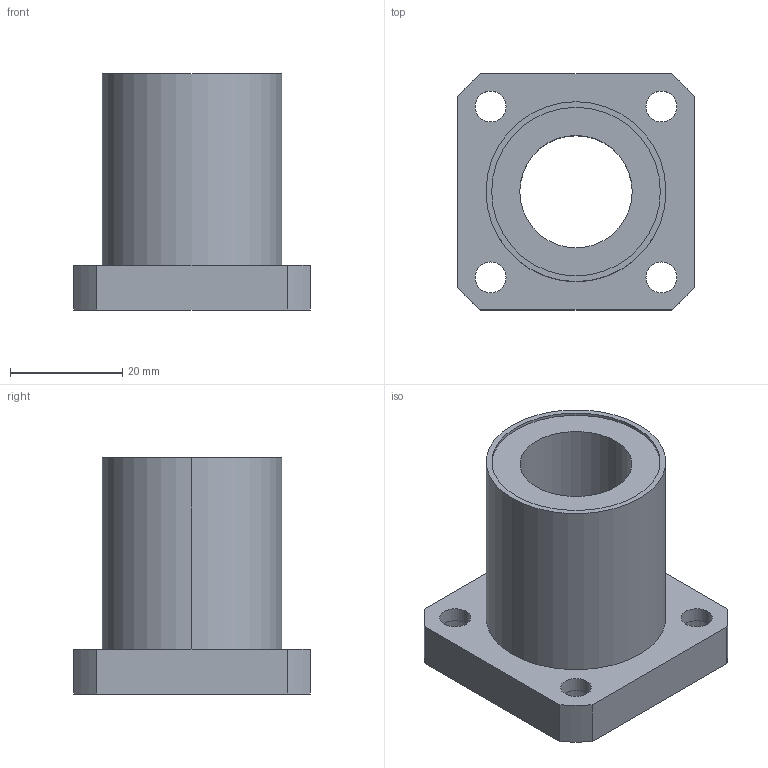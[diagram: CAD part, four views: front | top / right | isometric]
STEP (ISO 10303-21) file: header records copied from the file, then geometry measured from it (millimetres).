
FILE_DESCRIPTION((''),'2;1');
FILE_NAME('C:\Documents and Settings\ｿﾀﾀ蠑ｷ1\ｹﾙﾅﾁ ﾈｭｸ饅\ｺﾎﾇｰﾆﾄﾀﾏ\ﾁｦﾇｰ\LMK__UU\LMK20UU.stp','2005-06-15T09:48:28',('ｿﾀﾀ蠑ｷ1'),(''),'Autodesk Inventor 9','Autodesk Inventor 9','');
FILE_SCHEMA(('AUTOMOTIVE_DESIGN { 1 0 10303 214 1 1 1 1 }'));
Length unit declared in the file: millimetre
Products named in the file (1): LMK__
Bounding box: 42 x 42 x 42 mm (x, y, z)
Volume: 25604.4 mm3; surface area: 10849.7 mm2
Topology: 1 solids, 1 shells, 44 faces, 102 edges, 68 vertices
Faces by surface type: cylinder 30, plane 14
Entity records: 1329 total; most frequent: DIRECTION 252, CARTESIAN_POINT 215, ORIENTED_EDGE 204, AXIS2_PLACEMENT_3D 105, EDGE_CURVE 102, VERTEX_POINT 68, EDGE_LOOP 62, CIRCLE 60
